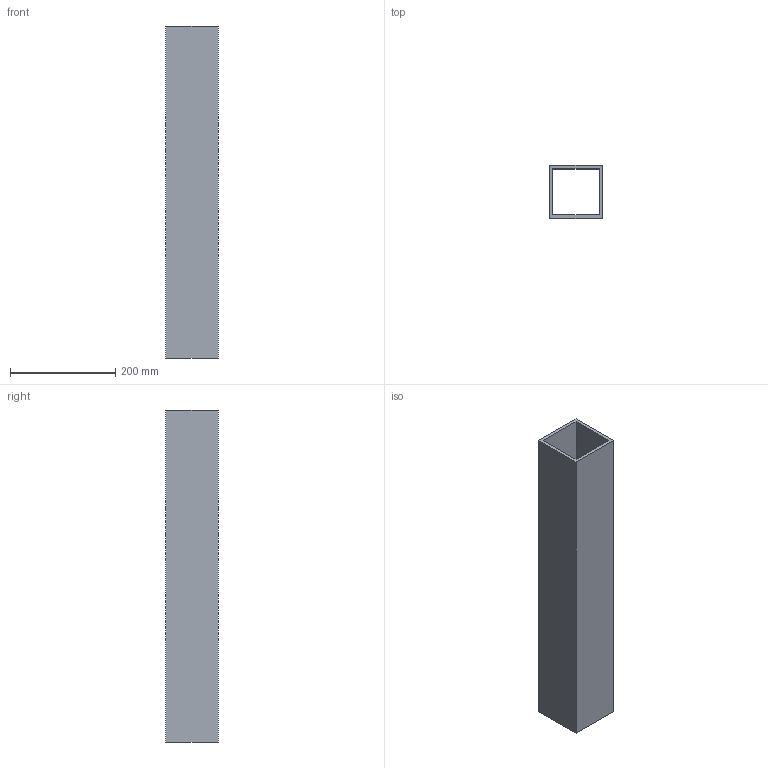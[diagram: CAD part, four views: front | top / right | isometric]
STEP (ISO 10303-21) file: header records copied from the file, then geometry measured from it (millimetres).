
FILE_DESCRIPTION(('Open CASCADE Model'),'2;1');
FILE_NAME('Open CASCADE Shape Model','2026-10-15T15:10:05',('Author'),( 'Open CASCADE'),'Open CASCADE STEP processor 8.0','Open CASCADE 8.0' ,'Unknown');
FILE_SCHEMA(('AUTOMOTIVE_DESIGN { 1 0 10303 214 1 1 1 1 }'));
Length unit declared in the file: millimetre
Products named in the file (1): CORTE_TRAVESANO100x100x6_L630_P05 175
Bounding box: 100 x 100 x 630 mm (x, y, z)
Volume: 1421280 mm3; surface area: 478272 mm2
Topology: 1 solids, 1 shells, 10 faces, 24 edges, 16 vertices
Faces by surface type: plane 10
Entity records: 614 total; most frequent: CARTESIAN_POINT 99, DIRECTION 94, LINE 72, VECTOR 72, ORIENTED_EDGE 48, PCURVE 48, DEFINITIONAL_REPRESENTATION 48, EDGE_CURVE 24
